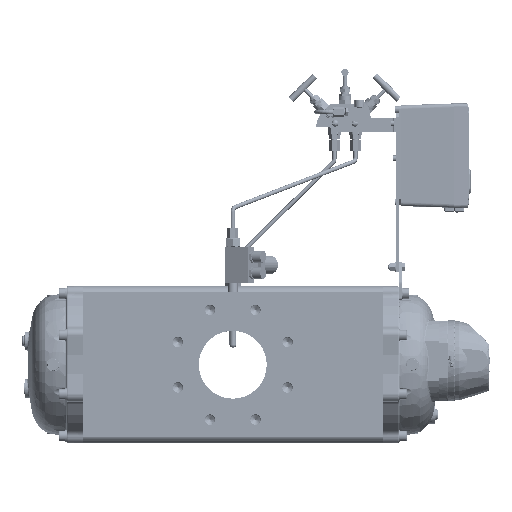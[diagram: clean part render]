
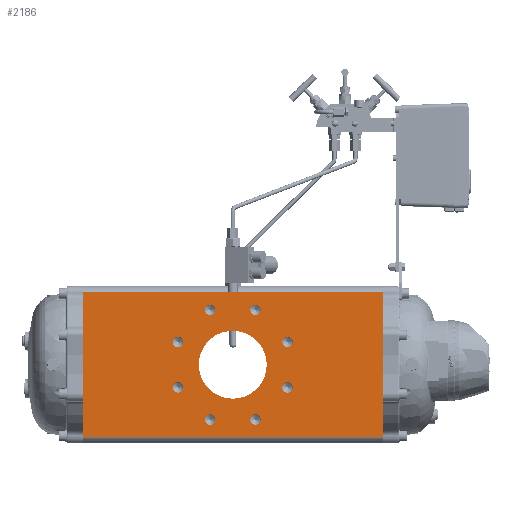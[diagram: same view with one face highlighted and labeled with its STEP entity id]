
A CAD part, front view. The second image highlights one B-rep face of the part: STEP entity #2186.
In plain terms, the highlighted planar face has unit normal (0, -1, 0).
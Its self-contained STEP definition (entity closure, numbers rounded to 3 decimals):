
#2186=ADVANCED_FACE('',(#93724,#93726,#93728,#93730,#93732,#93734,#93736,#93738,
#93740,#93742),#93744,.T.);
#93724=FACE_BOUND('',#93725,.T.);
#93725=EDGE_LOOP('',(#178975,#178976,#178977,#178978));
#93726=FACE_BOUND('',#93727,.T.);
#93727=EDGE_LOOP('',(#178979));
#93728=FACE_BOUND('',#93729,.T.);
#93729=EDGE_LOOP('',(#178980));
#93730=FACE_BOUND('',#93731,.T.);
#93731=EDGE_LOOP('',(#178981));
#93732=FACE_BOUND('',#93733,.T.);
#93733=EDGE_LOOP('',(#178982));
#93734=FACE_BOUND('',#93735,.T.);
#93735=EDGE_LOOP('',(#178983));
#93736=FACE_BOUND('',#93737,.T.);
#93737=EDGE_LOOP('',(#178984));
#93738=FACE_BOUND('',#93739,.T.);
#93739=EDGE_LOOP('',(#178985));
#93740=FACE_BOUND('',#93741,.T.);
#93741=EDGE_LOOP('',(#178986));
#93742=FACE_BOUND('',#93743,.T.);
#93743=EDGE_LOOP('',(#178987));
#93744=PLANE('',#93745);
#93745=AXIS2_PLACEMENT_3D('',#93746,#93747,#93748);
#93746=CARTESIAN_POINT('',(-454.2,-120.5,110.));
#93747=DIRECTION('',(0.,-1.,0.));
#93748=DIRECTION('',(0.,0.,-1.));
#178975=ORIENTED_EDGE('',*,*,#247462,.T.);
#178976=ORIENTED_EDGE('',*,*,#247463,.T.);
#178977=ORIENTED_EDGE('',*,*,#247209,.T.);
#178978=ORIENTED_EDGE('',*,*,#247461,.F.);
#178979=ORIENTED_EDGE('',*,*,#247464,.T.);
#178980=ORIENTED_EDGE('',*,*,#247465,.T.);
#178981=ORIENTED_EDGE('',*,*,#247466,.T.);
#178982=ORIENTED_EDGE('',*,*,#247467,.T.);
#178983=ORIENTED_EDGE('',*,*,#247468,.T.);
#178984=ORIENTED_EDGE('',*,*,#247469,.T.);
#178985=ORIENTED_EDGE('',*,*,#247470,.T.);
#178986=ORIENTED_EDGE('',*,*,#247471,.T.);
#178987=ORIENTED_EDGE('',*,*,#247472,.T.);
#247209=EDGE_CURVE('',#277652,#277650,#277653,.T.);
#247461=EDGE_CURVE('',#278097,#277650,#278099,.T.);
#247462=EDGE_CURVE('',#278097,#278100,#278101,.T.);
#247463=EDGE_CURVE('',#278100,#277652,#278102,.T.);
#247464=EDGE_CURVE('',#278103,#278103,#278104,.T.);
#247465=EDGE_CURVE('',#278105,#278105,#278106,.T.);
#247466=EDGE_CURVE('',#278107,#278107,#278108,.T.);
#247467=EDGE_CURVE('',#278109,#278109,#278110,.T.);
#247468=EDGE_CURVE('',#278111,#278111,#278112,.T.);
#247469=EDGE_CURVE('',#278113,#278113,#278114,.T.);
#247470=EDGE_CURVE('',#278115,#278115,#278116,.T.);
#247471=EDGE_CURVE('',#278117,#278117,#278118,.T.);
#247472=EDGE_CURVE('',#278119,#278119,#278120,.T.);
#277650=VERTEX_POINT('',#327040);
#277652=VERTEX_POINT('',#327044);
#277653=LINE('',#327045,#327046);
#278097=VERTEX_POINT('',#330366);
#278099=LINE('',#330370,#330371);
#278100=VERTEX_POINT('',#330373);
#278101=LINE('',#330374,#330375);
#278102=LINE('',#330377,#330378);
#278103=VERTEX_POINT('',#330380);
#278104=CIRCLE('',#330381,7.917);
#278105=VERTEX_POINT('',#330385);
#278106=CIRCLE('',#330386,7.917);
#278107=VERTEX_POINT('',#330390);
#278108=CIRCLE('',#330391,7.917);
#278109=VERTEX_POINT('',#330395);
#278110=CIRCLE('',#330396,7.917);
#278111=VERTEX_POINT('',#330400);
#278112=CIRCLE('',#330401,7.917);
#278113=VERTEX_POINT('',#330405);
#278114=CIRCLE('',#330406,7.917);
#278115=VERTEX_POINT('',#330410);
#278116=CIRCLE('',#330411,7.917);
#278117=VERTEX_POINT('',#330415);
#278118=CIRCLE('',#330416,51.5);
#278119=VERTEX_POINT('',#330420);
#278120=CIRCLE('',#330421,7.917);
#327040=CARTESIAN_POINT('',(0.,-120.5,110.));
#327044=CARTESIAN_POINT('',(0.,-120.5,-110.));
#327045=CARTESIAN_POINT('',(0.,-120.5,-110.));
#327046=VECTOR('',#327047,1.);
#327047=DIRECTION('',(0.,0.,1.));
#330366=CARTESIAN_POINT('',(-454.2,-120.5,110.));
#330370=CARTESIAN_POINT('',(-454.2,-120.5,110.));
#330371=VECTOR('',#330372,1.);
#330372=DIRECTION('',(1.,0.,0.));
#330373=CARTESIAN_POINT('',(-454.2,-120.5,-110.));
#330374=CARTESIAN_POINT('',(-454.2,-120.5,110.));
#330375=VECTOR('',#330376,1.);
#330376=DIRECTION('',(0.,0.,-1.));
#330377=CARTESIAN_POINT('',(-454.2,-120.5,-110.));
#330378=VECTOR('',#330379,1.);
#330379=DIRECTION('',(1.,0.,0.));
#330380=CARTESIAN_POINT('',(-253.624,-120.5,83.149));
#330381=AXIS2_PLACEMENT_3D('',#330382,#330383,#330384);
#330382=CARTESIAN_POINT('',(-261.542,-120.5,83.149));
#330383=DIRECTION('',(0.,1.,0.));
#330384=DIRECTION('',(1.,0.,0.));
#330385=CARTESIAN_POINT('',(-302.332,-120.5,34.442));
#330386=AXIS2_PLACEMENT_3D('',#330387,#330388,#330389);
#330387=CARTESIAN_POINT('',(-310.249,-120.5,34.442));
#330388=DIRECTION('',(0.,1.,0.));
#330389=DIRECTION('',(1.,0.,0.));
#330390=CARTESIAN_POINT('',(-136.033,-120.5,34.442));
#330391=AXIS2_PLACEMENT_3D('',#330392,#330393,#330394);
#330392=CARTESIAN_POINT('',(-143.951,-120.5,34.442));
#330393=DIRECTION('',(0.,1.,0.));
#330394=DIRECTION('',(1.,0.,0.));
#330395=CARTESIAN_POINT('',(-136.033,-120.5,-34.442));
#330396=AXIS2_PLACEMENT_3D('',#330397,#330398,#330399);
#330397=CARTESIAN_POINT('',(-143.951,-120.5,-34.442));
#330398=DIRECTION('',(0.,1.,0.));
#330399=DIRECTION('',(1.,0.,0.));
#330400=CARTESIAN_POINT('',(-184.741,-120.5,-83.149));
#330401=AXIS2_PLACEMENT_3D('',#330402,#330403,#330404);
#330402=CARTESIAN_POINT('',(-192.658,-120.5,-83.149));
#330403=DIRECTION('',(0.,1.,0.));
#330404=DIRECTION('',(1.,0.,0.));
#330405=CARTESIAN_POINT('',(-253.624,-120.5,-83.149));
#330406=AXIS2_PLACEMENT_3D('',#330407,#330408,#330409);
#330407=CARTESIAN_POINT('',(-261.542,-120.5,-83.149));
#330408=DIRECTION('',(0.,1.,0.));
#330409=DIRECTION('',(1.,0.,0.));
#330410=CARTESIAN_POINT('',(-302.332,-120.5,-34.442));
#330411=AXIS2_PLACEMENT_3D('',#330412,#330413,#330414);
#330412=CARTESIAN_POINT('',(-310.249,-120.5,-34.442));
#330413=DIRECTION('',(0.,1.,0.));
#330414=DIRECTION('',(1.,0.,0.));
#330415=CARTESIAN_POINT('',(-278.6,-120.5,0.));
#330416=AXIS2_PLACEMENT_3D('',#330417,#330418,#330419);
#330417=CARTESIAN_POINT('',(-227.1,-120.5,0.));
#330418=DIRECTION('',(0.,1.,0.));
#330419=DIRECTION('',(-1.,0.,0.));
#330420=CARTESIAN_POINT('',(-184.741,-120.5,83.149));
#330421=AXIS2_PLACEMENT_3D('',#330422,#330423,#330424);
#330422=CARTESIAN_POINT('',(-192.658,-120.5,83.149));
#330423=DIRECTION('',(0.,1.,0.));
#330424=DIRECTION('',(1.,0.,0.));
